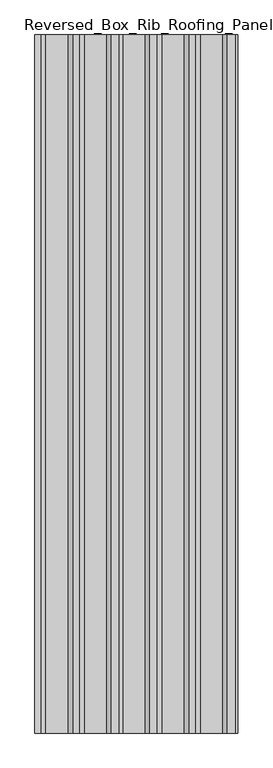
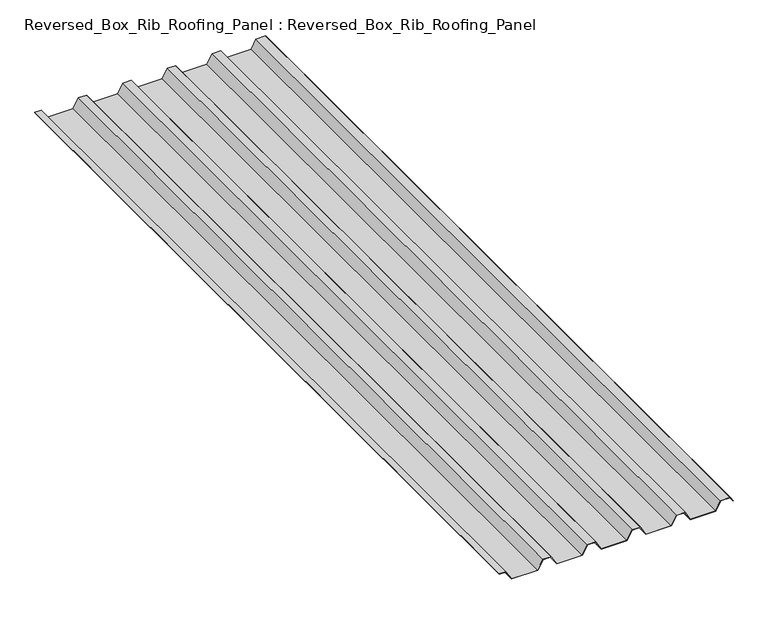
"""IFC4 building model written with IfcOpenShell, lengths in millimetres: proxy geometry, Reversed_Box_Rib_Roofing_Panel : Reversed_Box_Rib_Roofing_Panel."""

from ifc_helpers import new_model, si_unit, frame, origin, place, context, project, spatial, polyline, outline, extrude, source, transform, mapped, element, save


def reversed_box_rib_roofing_panel_reversed_box_rib_roofing_1db7d4b0(model_context):
    return source(origin(), model_context, "Body", "SweptSolid", [
        extrude(outline(polyline([(38.327204, 476.4041473), (20.8579102, 487.8845983), (21.4981992, 488.8588977), (39.493064, 477.0330527), (39.493064, 436.8700449), (1.16586, 417.8196856), (1.16586, 313.806936), (39.26586, 291.8098908), (39.26586, 256.94708), (1.16586, 234.9500347), (1.16586, 130.8879458), (39.26586, 108.8909005), (39.26586, 74.0280897), (1.16586, 52.0310445), (1.16586, -52.0310445), (39.26586, -74.0280897), (39.26586, -108.8909005), (1.16586, -130.8879458), (1.16586, -234.9500347), (39.26586, -256.94708), (39.26586, -291.8098908), (1.16586, -313.806936), (1.16586, -419.9516547), (39.2400148, -443.3176952), (39.2400148, -470.0381287), (38.0741548, -470.0381287), (38.0741548, -443.9701089), (0.0, -420.6040684), (0.0, -313.1338264), (38.1, -291.1367812), (38.1, -257.6201896), (0.0, -235.6231443), (0.0, -130.2148362), (38.1, -108.2177909), (38.1, -74.7011993), (0.0, -52.7041541), (0.0, 52.7041541), (38.1, 74.7011993), (38.1, 108.2177909), (0.0, 130.2148362), (0.0, 235.6231443), (38.1, 257.6201896), (38.1, 291.1367812), (0.0, 313.1338264), (0.0, 418.5421346), (38.327204, 437.5924939), (38.327204, 476.4041473)])), frame((0.0, -3302.0, 0.0), z_axis=(0.0, 1.0, 0.0), x_axis=(0.0, 0.0, 1.0)), (0.0, 0.0, 1.0), 3302.0),
    ])


if __name__ == "__main__":
    model = new_model("IFC4")
    model_context = context("Model", 3, world=origin())
    ifc_project = project(units=[si_unit("LENGTHUNIT", "METRE", prefix="MILLI")], contexts=[model_context])
    site = spatial("IfcSite", under=ifc_project)
    building = spatial("IfcBuilding", under=site)
    placement = place(None, origin())
    reversed_box_rib_roofing_panel_reversed_box_rib_roofing_shape = reversed_box_rib_roofing_panel_reversed_box_rib_roofing_1db7d4b0(model_context)
    element("IfcBuildingElementProxy", 1, Name="Reversed_Box_Rib_Roofing_Panel : Reversed_Box_Rib_Roofing_Panel", ObjectType="Reversed_Box_Rib_Roofing_Panel : Reversed_Box_Rib_Roofing_Panel", at=placement, inside=building, context=model_context, shape_type="MappedRepresentation", body=[
        mapped(reversed_box_rib_roofing_panel_reversed_box_rib_roofing_shape, transform((0.0, 0.0, 0.0), x_axis=(1.0, 0.0, 0.0), y_axis=(0.0, 1.0, 0.0), z_axis=(0.0, 0.0, 1.0))),
    ])
    save(model, "model.ifc")
